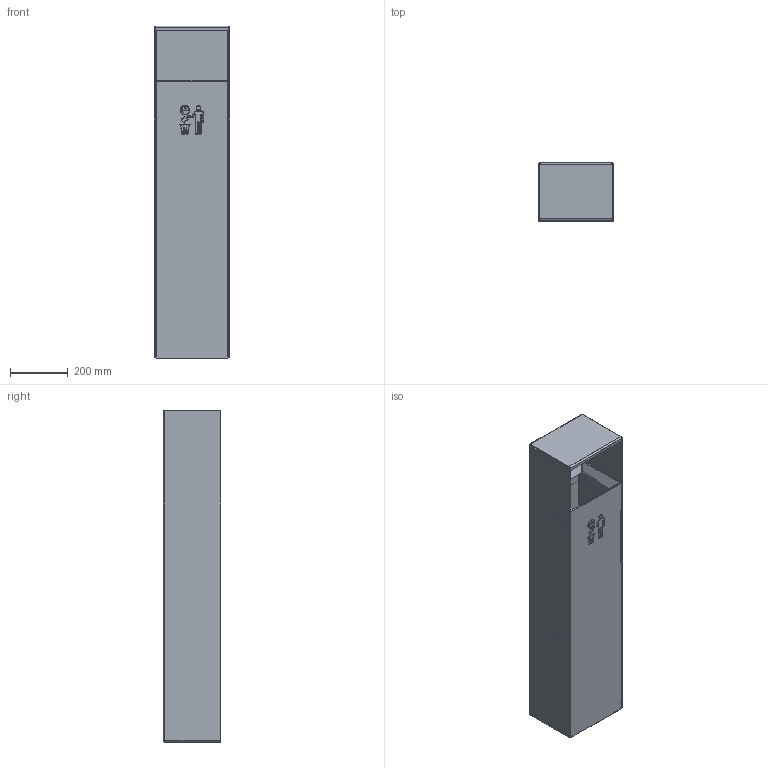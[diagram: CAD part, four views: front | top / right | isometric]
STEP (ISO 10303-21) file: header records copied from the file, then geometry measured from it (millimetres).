
FILE_DESCRIPTION(/* description */ ('Unknown'),/* implementation_level */ '2;1');
FILE_NAME(/* name */ 'PA-01',/* time_stamp */ '2025-10-16T10:18:50+03:00',/* author */ ('Unknown'),/* organization */ ('Unknown'),/* preprocessor_version */ 'ST-DEVELOPER v18.102',/* originating_system */ 'Solid Edge',/* authorisation */ 'Unknown');
FILE_SCHEMA (('CONFIG_CONTROL_DESIGN'));
Length unit declared in the file: millimetre
Products named in the file (18): PA-01.000.00 Êîíòåéíåð áèëåòîâ; PA-01.010.00 扻豵鵨; PA-01.010.01 忺謤僔_oa_0; PA-01.010.02 Äåðæàòåëü; PA-01.010.03 ﾇ璋襃; PA-01.020.00 Êîíòåéíåð; PA-01.020.01 Êîðîá; PA-01.020.02 栺樇罻; PA-01.020.03 ﾊ煇鳫; Çàêëåïêà_âûòÿæíàÿ_3,2õ6_DIN_7337_1,0...3,0_àëþì.; PA-01.030.00 署赅; PA-01.030.01 眈翴錪_oa_1; PA-01.030.02 Ñêîáà; Çàêëåïêà_âûòÿæíàÿ_4õ8_DIN_7337-B_3,0...5,0_àëþì.; PA-01.040.00 拺譇膻玁蠈錪; PA-01.040.01 拺譇膻玁蠈錪; Çàêëåïêà_ðåçüáîâàÿ_Ì4_FTT.C_0,3...2,5; 鎔艜_M4x10_DIN_7985
Assembly tree (43 placements, depth 3):
  PA-01.000.00 Êîíòåéíåð áèëåòîâ
    PA-01.010.00 扻豵鵨
      PA-01.010.01 忺謤僔_oa_0
      PA-01.010.02 Äåðæàòåëü  x2
      PA-01.010.03 ﾇ璋襃
    PA-01.020.00 Êîíòåéíåð
      PA-01.020.01 Êîðîá
      PA-01.020.02 栺樇罻
      PA-01.020.03 ﾊ煇鳫  x2
      Çàêëåïêà_âûòÿæíàÿ_3,2õ6_DIN_7337_1,0...3,0_àëþì.  x20
    PA-01.030.00 署赅
      PA-01.030.01 眈翴錪_oa_1
      PA-01.030.02 Ñêîáà
      Çàêëåïêà_âûòÿæíàÿ_4õ8_DIN_7337-B_3,0...5,0_àëþì.  x4
    PA-01.040.00 拺譇膻玁蠈錪  x2
      PA-01.040.01 拺譇膻玁蠈錪
      Çàêëåïêà_ðåçüáîâàÿ_Ì4_FTT.C_0,3...2,5
    鎔艜_M4x10_DIN_7985  x2
Bounding box: 260 x 200 x 1150 mm (x, y, z)
Volume: 3738940.5 mm3; surface area: 3786273.1 mm2
Topology: 40 solids, 40 shells, 1209 faces, 2831 edges, 1767 vertices
Faces by surface type: plane 647, cylinder 308, torus 140, bspline 68, cone 44, sphere 2
Full cylindrical faces by diameter (mm): 2 x20, 2.5 x4, 3.2 x20, 3.242 x2, 3.3 x40, 3.714 x2, 4 x8, 4.2 x2, 4.5 x8, 5 x2, 5.9 x4, 6.3 x2, 7.4 x4, 8 x2, 9 x2, 13 x2
Entity records: 25823 total; most frequent: CARTESIAN_POINT 5384, DIRECTION 3620, ORIENTED_EDGE 3596, EDGE_CURVE 1798, LINE 1214, VECTOR 1214, AXIS2_PLACEMENT_3D 1203, VERTEX_POINT 1197
